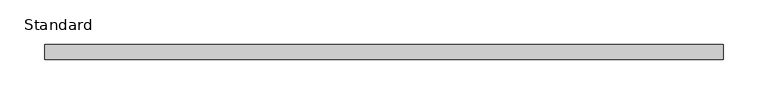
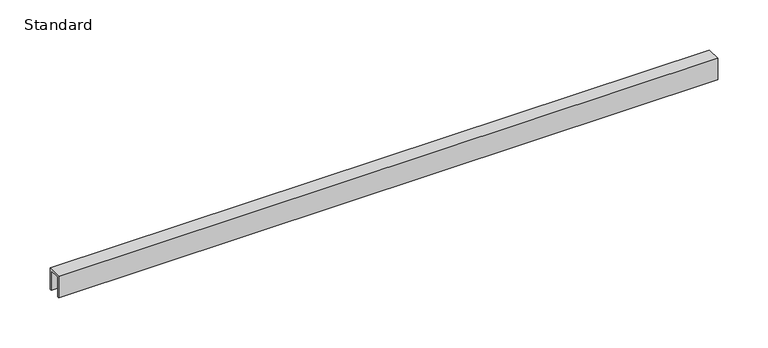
"""IFC4 building model written with IfcOpenShell, lengths in millimetres: furniture geometry, X_Partition-Channel-Duracube-Ceiling : Standard."""

import ifcopenshell
import ifcopenshell.guid

model = None  # the IFC model being written
_history = None  # IfcOwnerHistory: only IFC2X3 demands one
_inside = {}  # id of a spatial element -> (the spatial element, [elements in it])
_under = {}  # id of a project, library or spatial element -> (it, [spatial elements below it])
_declared = {}  # id of a project -> (the project, [libraries it declares])
_typed = {}  # id of a type object -> (the type object, [elements of that type])
_made_of = {}  # id of a material, layer set ... -> (it, [elements and type objects made of it])


def new_model(schema):
    """Start an empty IFC model of exactly this schema.

    Asked for "IFC4X3", IfcOpenShell would pick the latest addendum, in which some entities
    have other attributes; the version numbers below select the first issue.
    IFC2X3 requires an IfcOwnerHistory on every rooted entity: one is made here for all.
    """
    global model, _history
    if schema == "IFC4X3":
        model = ifcopenshell.file(schema_version=(4, 3, 0, 0))
    else:
        model = ifcopenshell.file(schema=schema)
    _inside.clear()
    _under.clear()
    _declared.clear()
    _typed.clear()
    _made_of.clear()
    _history = None
    if model.schema == "IFC2X3":
        org = make("IfcOrganization", Name="unknown")
        user = make(
            "IfcPersonAndOrganization",
            ThePerson=make("IfcPerson", FamilyName="unknown"),
            TheOrganization=org,
        )
        app = make(
            "IfcApplication",
            ApplicationDeveloper=org,
            Version="unknown",
            ApplicationFullName="unknown",
            ApplicationIdentifier="unknown",
        )
        _history = make(
            "IfcOwnerHistory",
            OwningUser=user,
            OwningApplication=app,
            ChangeAction="ADDED",
            CreationDate=0,
        )
    return model


def make(cls, **values):
    """One entity of the class cls with the attributes given. An attribute that is None is left unset."""
    return model.create_entity(
        cls, **{name: value for name, value in values.items() if value is not None}
    )


def rooted(cls, **values):
    """An entity with a GlobalId (a new one), such as an element, a storey or a relation."""
    return make(cls, GlobalId=ifcopenshell.guid.new(), OwnerHistory=_history, **values)


def si_unit(unit_type, name, prefix=None):
    """IfcSIUnit, for example si_unit("LENGTHUNIT", "METRE", prefix="MILLI")."""
    return make("IfcSIUnit", UnitType=unit_type, Prefix=prefix, Name=name)


def assignment(units):
    """IfcUnitAssignment: the units of a project."""
    return None if units is None else make("IfcUnitAssignment", Units=units)


def point(xyz):
    """IfcCartesianPoint."""
    return None if xyz is None else make("IfcCartesianPoint", Coordinates=xyz)


def direction(xyz):
    """IfcDirection."""
    return None if xyz is None else make("IfcDirection", DirectionRatios=xyz)


def frame(location, z_axis=None, x_axis=None):
    """IfcAxis2Placement3D, a coordinate frame: its origin and axes. An axis left out is left unset."""
    return make(
        "IfcAxis2Placement3D",
        Location=point(location),
        Axis=direction(z_axis),
        RefDirection=direction(x_axis),
    )


def origin():
    """The frame at (0, 0, 0) with its axes left unset."""
    return frame((0.0, 0.0, 0.0))


def place(relative_to, where):
    """IfcLocalPlacement: puts the frame where relative to a parent placement (None: the world)."""
    return make(
        "IfcLocalPlacement", PlacementRelTo=relative_to, RelativePlacement=where
    )


def context(
    kind, dimensions, precision=None, world=None, true_north=None, identifier=None
):
    """IfcGeometricRepresentationContext, for example the 3D "Model" context."""
    return make(
        "IfcGeometricRepresentationContext",
        ContextIdentifier=identifier,
        ContextType=kind,
        CoordinateSpaceDimension=dimensions,
        Precision=precision,
        WorldCoordinateSystem=world,
        TrueNorth=true_north,
    )


def project(units=None, contexts=None):
    """IfcProject with its units and contexts."""
    return rooted(
        "IfcProject",
        Name="project",
        RepresentationContexts=contexts,
        UnitsInContext=assignment(units),
    )


def spatial(cls, under=None, at=None, **own):
    """A site, building, storey or space (cls), placed at a placement, below another one or the project."""
    s = rooted(cls, ObjectPlacement=at, **own)
    if under is not None:
        _under.setdefault(under.id(), (under, []))[1].append(s)
    return s


def polyline(points):
    """IfcPolyline through the points."""
    return make("IfcPolyline", Points=[point(p) for p in points])


def outline(outer, holes=None, kind="AREA"):
    """IfcArbitraryClosedProfileDef: a profile drawn as a closed curve; with holes, ...WithVoids."""
    if holes is None:
        return make("IfcArbitraryClosedProfileDef", ProfileType=kind, OuterCurve=outer)
    return make(
        "IfcArbitraryProfileDefWithVoids",
        ProfileType=kind,
        OuterCurve=outer,
        InnerCurves=holes,
    )


def extrude(swept, where, along, depth):
    """IfcExtrudedAreaSolid: the profile swept, set in the frame where, extruded along a direction by depth."""
    return make(
        "IfcExtrudedAreaSolid",
        SweptArea=swept,
        Position=where,
        ExtrudedDirection=direction(along),
        Depth=depth,
    )


def shape(context_of_items, identifier, shape_type, items):
    """IfcShapeRepresentation: the items that make up one representation, for example the "Body"."""
    return make(
        "IfcShapeRepresentation",
        ContextOfItems=context_of_items,
        RepresentationIdentifier=identifier,
        RepresentationType=shape_type,
        Items=items,
    )


def source(mapping_origin, context_of_items, identifier, shape_type, items):
    """IfcRepresentationMap: a shape defined once, which mapped items show again and again."""
    return make(
        "IfcRepresentationMap",
        MappingOrigin=mapping_origin,
        MappedRepresentation=shape(context_of_items, identifier, shape_type, items),
    )


def transform(
    local_origin,
    x_axis=None,
    y_axis=None,
    z_axis=None,
    scale=None,
    scale2=None,
    scale3=None,
    uniform=True,
):
    """IfcCartesianTransformationOperator3D, or its non-uniform kind. x_axis, y_axis, z_axis: its Axis1, 2, 3."""
    if uniform:
        return make(
            "IfcCartesianTransformationOperator3D",
            Axis1=direction(x_axis),
            Axis2=direction(y_axis),
            LocalOrigin=point(local_origin),
            Scale=scale,
            Axis3=direction(z_axis),
        )
    return make(
        "IfcCartesianTransformationOperator3DnonUniform",
        Axis1=direction(x_axis),
        Axis2=direction(y_axis),
        LocalOrigin=point(local_origin),
        Scale=scale,
        Axis3=direction(z_axis),
        Scale2=scale2,
        Scale3=scale3,
    )


def mapped(mapping_source, mapping_target):
    """IfcMappedItem: shows the shape of a source again, moved by a transform."""
    return make(
        "IfcMappedItem", MappingSource=mapping_source, MappingTarget=mapping_target
    )


def made_of(thing, what):
    """Note that an element or type object is made of a material, layer set ...; save() writes the relation."""
    if what is not None:
        _made_of.setdefault(what.id(), (what, []))[1].append(thing)
    return thing


def element(
    cls,
    number,
    at=None,
    inside=None,
    cuts=None,
    type_object=None,
    material=None,
    context=None,
    identifier="Body",
    shape_type=None,
    held_by="IfcProductDefinitionShape",
    body=None,
    shapes=None,
    **own,
):
    """One element of the class cls, such as IfcWall. Its Tag is "e" and its number.

    at: its placement. inside: the storey or other place that contains it. cuts: it is an
    opening in that element (IfcRelVoidsElement). A single representation is given by context,
    identifier, shape_type and body (its items); several are given by shapes. held_by: the class
    of the entity that holds the representations. save() writes the other relations.
    """
    e = rooted(cls, Tag="e%d" % number, ObjectPlacement=at, **own)
    if body is not None:
        shapes = [shape(context, identifier, shape_type, body)]
    if shapes is not None:
        e.Representation = make(held_by, Representations=shapes)
    if inside is not None:
        _inside.setdefault(inside.id(), (inside, []))[1].append(e)
    if cuts is not None:
        rooted(
            "IfcRelVoidsElement", RelatingBuildingElement=cuts, RelatedOpeningElement=e
        )
    if type_object is not None:
        _typed.setdefault(type_object.id(), (type_object, []))[1].append(e)
    return made_of(e, material)


def aggregate(whole, parts):
    """IfcRelAggregates: a whole, such as a stair, and the parts it consists of."""
    return rooted("IfcRelAggregates", RelatingObject=whole, RelatedObjects=parts)


def save(model, path):
    """Write the relations noted so far, then the file.

    IfcRelAggregates (storeys below a building ...), IfcRelContainedInSpatialStructure (elements
    in a storey), IfcRelDefinesByType, IfcRelAssociatesMaterial and IfcRelDeclares: one each for
    every whole, place, type object, material and project.
    """
    for whole, parts in _under.values():
        aggregate(whole, parts)
    for where, things in _inside.values():
        rooted(
            "IfcRelContainedInSpatialStructure",
            RelatedElements=things,
            RelatingStructure=where,
        )
    for kind, things in _typed.values():
        rooted("IfcRelDefinesByType", RelatedObjects=things, RelatingType=kind)
    for what, things in _made_of.values():
        rooted("IfcRelAssociatesMaterial", RelatedObjects=things, RelatingMaterial=what)
    for by, libraries in _declared.values():
        rooted("IfcRelDeclares", RelatingContext=by, RelatedDefinitions=libraries)
    model.write(path)


def standard_af441d0e(model_context):
    return source(origin(), model_context, "Body", "SweptSolid", [
        extrude(outline(polyline([(0.0, 0.0), (-2.0, 0.0), (-2.0, 24.0), (-15.0, 24.0), (-15.0, 0.0), (-17.0, 0.0), (-17.0, 26.0), (0.0, 26.0), (0.0, 0.0)])), frame((-335.7996736, 0.0, 0.0), z_axis=(1.0, 0.0, 0.0), x_axis=(0.0, 1.0, 0.0)), (0.0, 0.0, 1.0), 761.0),
    ])


if __name__ == "__main__":
    model = new_model("IFC4")
    model_context = context("Model", 3, world=origin())
    ifc_project = project(units=[si_unit("LENGTHUNIT", "METRE", prefix="MILLI")], contexts=[model_context])
    site = spatial("IfcSite", under=ifc_project)
    building = spatial("IfcBuilding", under=site)
    placement = place(None, origin())
    standard_shape = standard_af441d0e(model_context)
    element("IfcFurniture", 1, ObjectType="X_Partition-Channel-Duracube-Ceiling : Standard", at=placement, inside=building, context=model_context, shape_type="MappedRepresentation", body=[
        mapped(standard_shape, transform((0.0, 0.0, 0.0), x_axis=(1.0, 0.0, 0.0), y_axis=(0.0, 1.0, 0.0), z_axis=(0.0, 0.0, 1.0))),
    ])
    save(model, "model.ifc")
